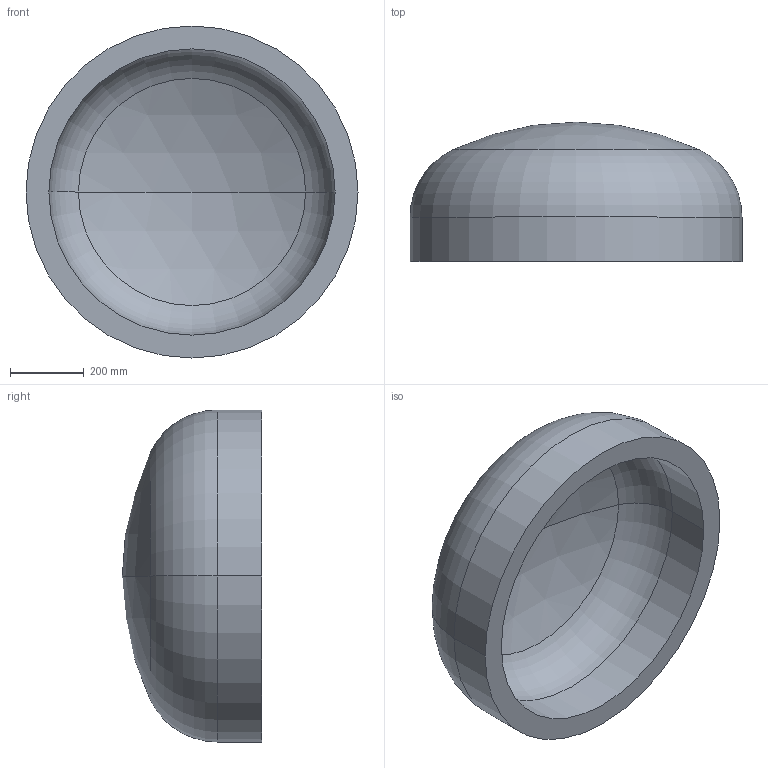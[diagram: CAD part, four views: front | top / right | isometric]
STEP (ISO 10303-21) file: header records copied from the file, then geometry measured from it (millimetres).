
FILE_DESCRIPTION (( 'STEP AP203' ), '1' );
FILE_NAME ('DIN 28013 Korbbogenform_-_Boden DIN 28013 - 900 x 120 - I - s=62.step', '2016-07-01T08:34:36', ( '' ), ( '' ), 'SwSTEP 2.0', 'SolidWorks 2013', '' );
FILE_SCHEMA (( 'CONFIG_CONTROL_DESIGN' ));
Length unit declared in the file: millimetre
Products named in the file (1): DIN 28013 Korbbogenform_-_Boden DIN 28013 - 900 x 120 - I - s=62
Bounding box: 900 x 377.69 x 900 mm (x, y, z)
Volume: 69757841.5 mm3; surface area: 2421528 mm2
Topology: 1 solids, 1 shells, 13 faces, 24 edges, 14 vertices
Faces by surface type: torus 4, cylinder 4, sphere 4, plane 1
Entity records: 407 total; most frequent: DIRECTION 72, CARTESIAN_POINT 52, ORIENTED_EDGE 48, AXIS2_PLACEMENT_3D 34, EDGE_CURVE 24, CIRCLE 20, EDGE_LOOP 14, VERTEX_POINT 14
